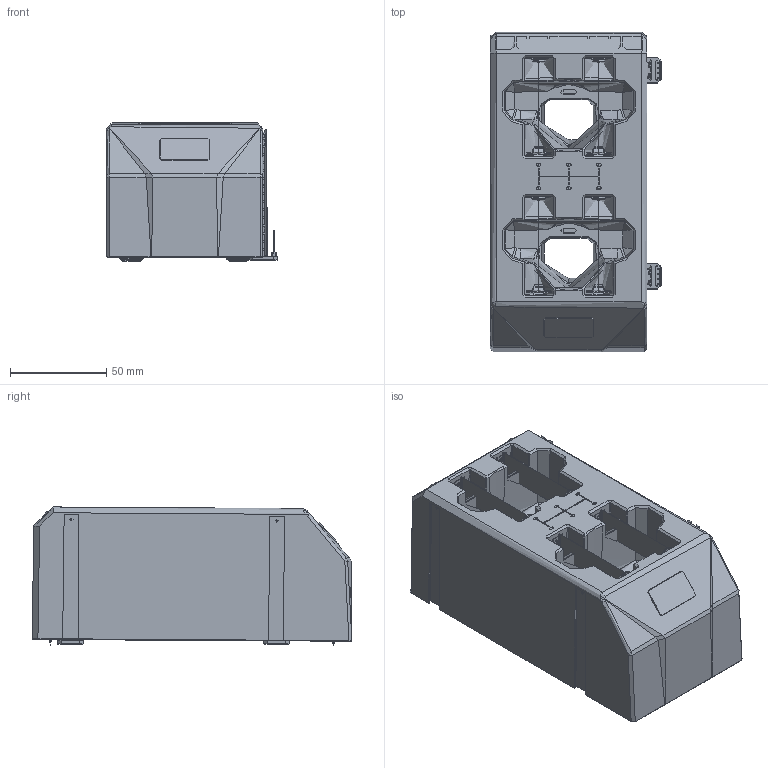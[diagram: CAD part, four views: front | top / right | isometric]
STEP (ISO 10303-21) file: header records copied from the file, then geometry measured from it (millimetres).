
FILE_DESCRIPTION(/* description */ (''),/* implementation_level */ '2;1');
FILE_NAME(/* name */ 'T-59CDZ',/* time_stamp */ '2024-10-11T17:52:51+08:00',/* author */ (''),/* organization */ (''),/* preprocessor_version */ 'ST-DEVELOPER v16.5',/* originating_system */ '',/* authorisation */ '');
FILE_SCHEMA (('CONFIG_CONTROL_DESIGN'));
Products named in the file (1): Document
Bounding box: 88.79 x 166 x 71.7 mm (x, y, z)
Volume: 113144.3 mm3; surface area: 266911.8 mm2
Topology: 56 solids, 61 shells, 6068 faces, 16039 edges, 10274 vertices
Faces by surface type: plane 3371, bspline 1400, cylinder 1297
Entity records: 235337 total; most frequent: CARTESIAN_POINT 130260, ORIENTED_EDGE 31986, EDGE_CURVE 16029, B_SPLINE_CURVE_WITH_KNOTS 12631, VERTEX_POINT 10274, EDGE_LOOP 6469, ADVANCED_FACE 6068, FACE_OUTER_BOUND 6068
